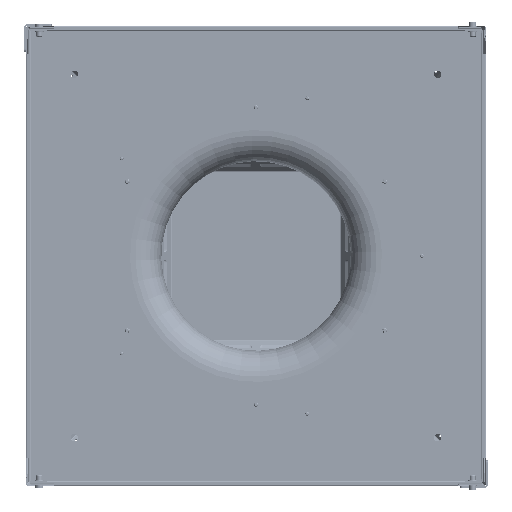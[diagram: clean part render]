
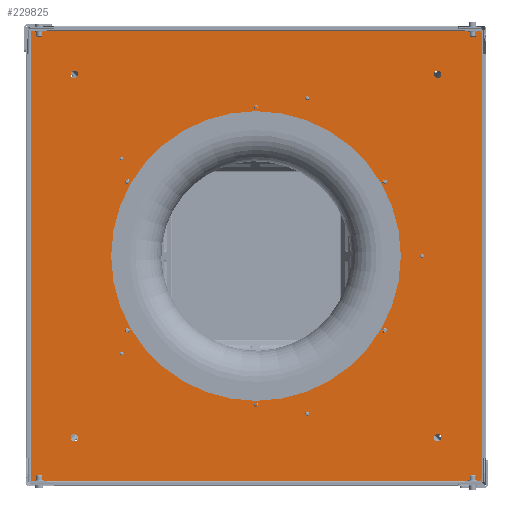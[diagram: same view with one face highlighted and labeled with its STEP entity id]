
A CAD part, front view. The second image highlights one B-rep face of the part: STEP entity #229825.
In plain terms, the highlighted planar face has unit normal (0, -1, 0).
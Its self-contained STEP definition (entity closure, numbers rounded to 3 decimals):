
#657 = DIRECTION ( 'NONE',  ( -1., 0., 0. ) ) ;
#5687 = ORIENTED_EDGE ( 'NONE', *, *, #400901, .T. ) ;
#8657 = CARTESIAN_POINT ( 'NONE',  ( 262., -2., -267.5 ) ) ;
#10737 = EDGE_LOOP ( 'NONE', ( #251852 ) ) ;
#12949 = ORIENTED_EDGE ( 'NONE', *, *, #346995, .T. ) ;
#13629 = CIRCLE ( 'NONE', #347790, 5.5 ) ;
#16955 = ORIENTED_EDGE ( 'NONE', *, *, #221831, .F. ) ;
#17054 = EDGE_CURVE ( 'NONE', #256002, #256002, #158533, .T. ) ;
#18173 = CARTESIAN_POINT ( 'NONE',  ( -196.106, -2., -142.479 ) ) ;
#22661 = ORIENTED_EDGE ( 'NONE', *, *, #261479, .T. ) ;
#27816 = CIRCLE ( 'NONE', #207771, 2.1 ) ;
#35633 = VERTEX_POINT ( 'NONE', #300035 ) ;
#39626 = VERTEX_POINT ( 'NONE', #18173 ) ;
#41396 = AXIS2_PLACEMENT_3D ( 'NONE', #171950, #398873, #204604 ) ;
#43608 = DIRECTION ( 'NONE',  ( 0., 1., 0. ) ) ;
#44970 = DIRECTION ( 'NONE',  ( 1., 0., 0. ) ) ;
#45524 = CARTESIAN_POINT ( 'NONE',  ( 331.3, -2., 332.8 ) ) ;
#51439 = EDGE_LOOP ( 'NONE', ( #285266 ) ) ;
#54062 = DIRECTION ( 'NONE',  ( 0., 1., 0. ) ) ;
#65371 = FACE_BOUND ( 'NONE', #367990, .T. ) ;
#66661 = AXIS2_PLACEMENT_3D ( 'NONE', #91005, #318064, #123603 ) ;
#67893 = LINE ( 'NONE', #394247, #143962 ) ;
#73640 = CARTESIAN_POINT ( 'NONE',  ( -273., -2., 267.5 ) ) ;
#79845 = DIRECTION ( 'NONE',  ( 0., 1., 0. ) ) ;
#84578 = VERTEX_POINT ( 'NONE', #145072 ) ;
#85682 = FACE_BOUND ( 'NONE', #291336, .T. ) ;
#86480 = VECTOR ( 'NONE', #315387, 1000. ) ;
#91005 = CARTESIAN_POINT ( 'NONE',  ( -197.805, -2., 143.713 ) ) ;
#97973 = ORIENTED_EDGE ( 'NONE', *, *, #175138, .F. ) ;
#98397 = CARTESIAN_POINT ( 'NONE',  ( -197.805, -2., -143.713 ) ) ;
#100964 = CIRCLE ( 'NONE', #41396, 2.1 ) ;
#101553 = ORIENTED_EDGE ( 'NONE', *, *, #286342, .T. ) ;
#107301 = EDGE_LOOP ( 'NONE', ( #179607, #97973, #155881, #263145 ) ) ;
#117971 = VERTEX_POINT ( 'NONE', #8657 ) ;
#118898 = VECTOR ( 'NONE', #272542, 1000. ) ;
#120186 = EDGE_CURVE ( 'NONE', #117971, #117971, #219828, .T. ) ;
#120926 = CARTESIAN_POINT ( 'NONE',  ( -331.3, -2., -332.8 ) ) ;
#123603 = DIRECTION ( 'NONE',  ( 0.809, 0., -0.588 ) ) ;
#130965 = DIRECTION ( 'NONE',  ( 0.809, 0., 0.588 ) ) ;
#134634 = DIRECTION ( 'NONE',  ( 1., 0., 0. ) ) ;
#141703 = DIRECTION ( 'NONE',  ( 0., 1., 0. ) ) ;
#143962 = VECTOR ( 'NONE', #134634, 1000. ) ;
#145072 = CARTESIAN_POINT ( 'NONE',  ( 331.3, -2., 331.3 ) ) ;
#151647 = FACE_BOUND ( 'NONE', #214072, .T. ) ;
#154507 = DIRECTION ( 'NONE',  ( 0., -1., 0. ) ) ;
#155881 = ORIENTED_EDGE ( 'NONE', *, *, #270786, .F. ) ;
#158533 = CIRCLE ( 'NONE', #367638, 5.5 ) ;
#159091 = DIRECTION ( 'NONE',  ( -1., 0., 0. ) ) ;
#161812 = FACE_BOUND ( 'NONE', #403018, .T. ) ;
#167088 = CARTESIAN_POINT ( 'NONE',  ( -331.3, -2., 331.3 ) ) ;
#171503 = CARTESIAN_POINT ( 'NONE',  ( 74.906, -2., -230.536 ) ) ;
#171950 = CARTESIAN_POINT ( 'NONE',  ( 75.555, -2., -232.533 ) ) ;
#175138 = EDGE_CURVE ( 'NONE', #192439, #84578, #67893, .T. ) ;
#179607 = ORIENTED_EDGE ( 'NONE', *, *, #380839, .F. ) ;
#181469 = AXIS2_PLACEMENT_3D ( 'NONE', #389293, #194921, #657 ) ;
#182511 = VERTEX_POINT ( 'NONE', #261068 ) ;
#188781 = CARTESIAN_POINT ( 'NONE',  ( 242.4, -2., 0. ) ) ;
#191340 = CARTESIAN_POINT ( 'NONE',  ( 267.5, -2., 267.5 ) ) ;
#192439 = VERTEX_POINT ( 'NONE', #167088 ) ;
#194921 = DIRECTION ( 'NONE',  ( 0., 1., 0. ) ) ;
#195052 = LINE ( 'NONE', #45524, #118898 ) ;
#204604 = DIRECTION ( 'NONE',  ( -0.309, 0., 0.951 ) ) ;
#206648 = AXIS2_PLACEMENT_3D ( 'NONE', #238006, #43608, #270627 ) ;
#207771 = AXIS2_PLACEMENT_3D ( 'NONE', #336138, #141703, #368720 ) ;
#208040 = AXIS2_PLACEMENT_3D ( 'NONE', #98397, #325485, #130965 ) ;
#208608 = VERTEX_POINT ( 'NONE', #351629 ) ;
#214072 = EDGE_LOOP ( 'NONE', ( #229507 ) ) ;
#217386 = CIRCLE ( 'NONE', #181469, 2.1 ) ;
#219828 = CIRCLE ( 'NONE', #259846, 5.5 ) ;
#221831 = EDGE_CURVE ( 'NONE', #208608, #208608, #312755, .T. ) ;
#224091 = DIRECTION ( 'NONE',  ( -1., 0., 0. ) ) ;
#229507 = ORIENTED_EDGE ( 'NONE', *, *, #120186, .T. ) ;
#229825 = ADVANCED_FACE ( 'NONE', ( #161812, #85682, #410442, #334457, #258310, #248101, #324295, #238012, #151647, #65371, #400263 ), #270590, .T. ) ;
#238006 = CARTESIAN_POINT ( 'NONE',  ( -267.5, -2., -267.5 ) ) ;
#238012 = FACE_BOUND ( 'NONE', #290293, .T. ) ;
#238203 = ORIENTED_EDGE ( 'NONE', *, *, #17054, .T. ) ;
#238749 = VERTEX_POINT ( 'NONE', #188781 ) ;
#239359 = DIRECTION ( 'NONE',  ( 0., -1., 0. ) ) ;
#246818 = EDGE_LOOP ( 'NONE', ( #22661 ) ) ;
#247249 = CARTESIAN_POINT ( 'NONE',  ( 262., -2., 267.5 ) ) ;
#248101 = FACE_BOUND ( 'NONE', #51439, .T. ) ;
#248382 = CARTESIAN_POINT ( 'NONE',  ( 267.5, -2., -267.5 ) ) ;
#251852 = ORIENTED_EDGE ( 'NONE', *, *, #341803, .T. ) ;
#256002 = VERTEX_POINT ( 'NONE', #247249 ) ;
#258310 = FACE_BOUND ( 'NONE', #246818, .T. ) ;
#259846 = AXIS2_PLACEMENT_3D ( 'NONE', #248382, #54062, #281060 ) ;
#261068 = CARTESIAN_POINT ( 'NONE',  ( -273., -2., -267.5 ) ) ;
#261479 = EDGE_CURVE ( 'NONE', #238749, #238749, #217386, .T. ) ;
#263145 = ORIENTED_EDGE ( 'NONE', *, *, #400373, .F. ) ;
#269567 = EDGE_LOOP ( 'NONE', ( #101553 ) ) ;
#270590 = PLANE ( 'NONE',  #388437 ) ;
#270627 = DIRECTION ( 'NONE',  ( -1., 0., 0. ) ) ;
#270786 = EDGE_CURVE ( 'NONE', #35633, #192439, #345426, .T. ) ;
#272542 = DIRECTION ( 'NONE',  ( 0., 0., -1. ) ) ;
#272626 = CIRCLE ( 'NONE', #66661, 2.1 ) ;
#272715 = EDGE_CURVE ( 'NONE', #360403, #360403, #272626, .T. ) ;
#274252 = CARTESIAN_POINT ( 'NONE',  ( -267.5, -2., 267.5 ) ) ;
#281060 = DIRECTION ( 'NONE',  ( -1., 0., 0. ) ) ;
#285266 = ORIENTED_EDGE ( 'NONE', *, *, #294772, .T. ) ;
#286342 = EDGE_CURVE ( 'NONE', #395778, #395778, #27816, .T. ) ;
#288826 = VERTEX_POINT ( 'NONE', #171503 ) ;
#290293 = EDGE_LOOP ( 'NONE', ( #238203 ) ) ;
#291336 = EDGE_LOOP ( 'NONE', ( #5687 ) ) ;
#294772 = EDGE_CURVE ( 'NONE', #182511, #182511, #419796, .T. ) ;
#295672 = CIRCLE ( 'NONE', #208040, 2.1 ) ;
#300035 = CARTESIAN_POINT ( 'NONE',  ( -331.3, -2., -331.3 ) ) ;
#306900 = DIRECTION ( 'NONE',  ( -1., 0., 0. ) ) ;
#312755 = CIRCLE ( 'NONE', #382445, 213.3 ) ;
#315387 = DIRECTION ( 'NONE',  ( 0., 0., 1. ) ) ;
#318064 = DIRECTION ( 'NONE',  ( 0., 1., 0. ) ) ;
#318315 = ORIENTED_EDGE ( 'NONE', *, *, #272715, .T. ) ;
#323509 = CARTESIAN_POINT ( 'NONE',  ( 74.906, -2., 230.536 ) ) ;
#324295 = FACE_BOUND ( 'NONE', #10737, .T. ) ;
#325485 = DIRECTION ( 'NONE',  ( 0., 1., 0. ) ) ;
#334457 = FACE_BOUND ( 'NONE', #269567, .T. ) ;
#336138 = CARTESIAN_POINT ( 'NONE',  ( 75.555, -2., 232.533 ) ) ;
#337411 = EDGE_LOOP ( 'NONE', ( #318315 ) ) ;
#341803 = EDGE_CURVE ( 'NONE', #385222, #385222, #13629, .T. ) ;
#342004 = CARTESIAN_POINT ( 'NONE',  ( 331.3, -2., -331.3 ) ) ;
#345426 = LINE ( 'NONE', #120926, #86480 ) ;
#346995 = EDGE_CURVE ( 'NONE', #288826, #288826, #100964, .T. ) ;
#347790 = AXIS2_PLACEMENT_3D ( 'NONE', #274252, #79845, #306900 ) ;
#348868 = CARTESIAN_POINT ( 'NONE',  ( 0., -2., 0. ) ) ;
#351629 = CARTESIAN_POINT ( 'NONE',  ( 213.3, -2., 0. ) ) ;
#353283 = CARTESIAN_POINT ( 'NONE',  ( -196.106, -2., 142.479 ) ) ;
#360403 = VERTEX_POINT ( 'NONE', #353283 ) ;
#367638 = AXIS2_PLACEMENT_3D ( 'NONE', #191340, #418268, #224091 ) ;
#367990 = EDGE_LOOP ( 'NONE', ( #16955 ) ) ;
#368720 = DIRECTION ( 'NONE',  ( -0.309, 0., -0.951 ) ) ;
#380839 = EDGE_CURVE ( 'NONE', #84578, #413774, #195052, .T. ) ;
#381466 = DIRECTION ( 'NONE',  ( 1., 0., 0. ) ) ;
#382445 = AXIS2_PLACEMENT_3D ( 'NONE', #348868, #154507, #381466 ) ;
#385222 = VERTEX_POINT ( 'NONE', #73640 ) ;
#388437 = AXIS2_PLACEMENT_3D ( 'NONE', #400918, #239359, #44970 ) ;
#389293 = CARTESIAN_POINT ( 'NONE',  ( 244.5, -2., 0. ) ) ;
#392428 = VECTOR ( 'NONE', #159091, 1000. ) ;
#394247 = CARTESIAN_POINT ( 'NONE',  ( -332.8, -2., 331.3 ) ) ;
#395778 = VERTEX_POINT ( 'NONE', #323509 ) ;
#398873 = DIRECTION ( 'NONE',  ( 0., 1., 0. ) ) ;
#400263 = FACE_OUTER_BOUND ( 'NONE', #107301, .T. ) ;
#400373 = EDGE_CURVE ( 'NONE', #413774, #35633, #402572, .T. ) ;
#400901 = EDGE_CURVE ( 'NONE', #39626, #39626, #295672, .T. ) ;
#400918 = CARTESIAN_POINT ( 'NONE',  ( 335., -2., -335. ) ) ;
#402572 = LINE ( 'NONE', #417211, #392428 ) ;
#403018 = EDGE_LOOP ( 'NONE', ( #12949 ) ) ;
#410442 = FACE_BOUND ( 'NONE', #337411, .T. ) ;
#413774 = VERTEX_POINT ( 'NONE', #342004 ) ;
#417211 = CARTESIAN_POINT ( 'NONE',  ( 332.8, -2., -331.3 ) ) ;
#418268 = DIRECTION ( 'NONE',  ( 0., 1., 0. ) ) ;
#419796 = CIRCLE ( 'NONE', #206648, 5.5 ) ;
